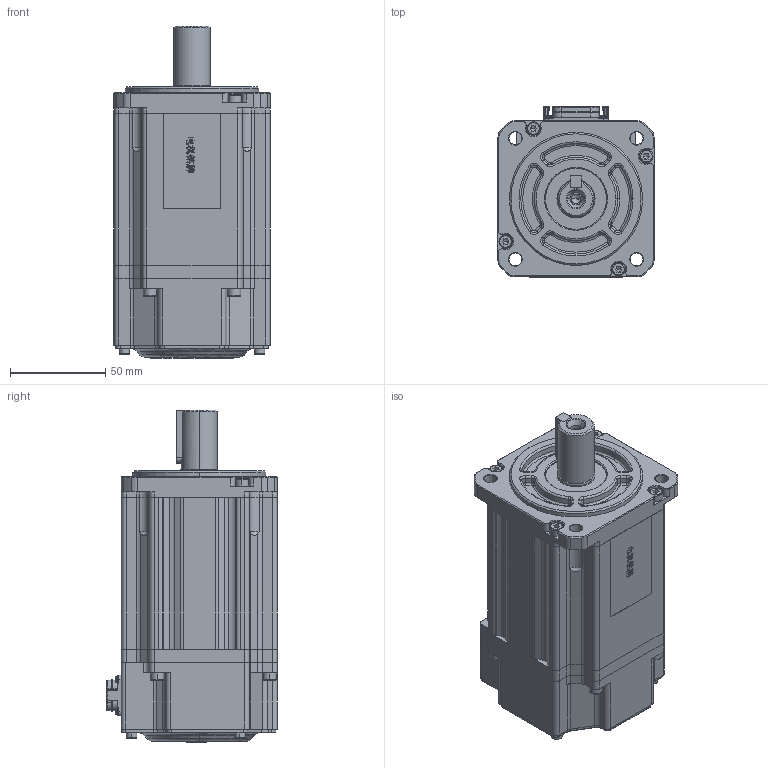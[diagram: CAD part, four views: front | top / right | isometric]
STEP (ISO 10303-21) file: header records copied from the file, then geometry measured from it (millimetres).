
FILE_DESCRIPTION (( 'STEP AP203' ), '1' );
FILE_NAME ('MC20-080-3L30-N102-0¡õCK-NNNN.STEP', '2026-04-20T15:26:22', ( '' ), ( '' ), 'SwSTEP 2.0', 'SolidWorks 2014', '' );
FILE_SCHEMA (( 'CONFIG_CONTROL_DESIGN' ));
Products named in the file (1): MC20-080-3L30-N102-0¡õCK-NNNN
Bounding box: 82 x 89.65 x 174.5 mm (x, y, z)
Volume: 881720.2 mm3; surface area: 130148.4 mm2
Topology: 19 solids, 23 shells, 2303 faces, 6045 edges, 3856 vertices
Faces by surface type: plane 1058, cylinder 603, bspline 340, cone 184, torus 118
Entity records: 91285 total; most frequent: CARTESIAN_POINT 37156, ORIENTED_EDGE 11940, DIRECTION 10054, EDGE_CURVE 5970, VERTEX_POINT 3856, LINE 3402, VECTOR 3402, AXIS2_PLACEMENT_3D 3326
